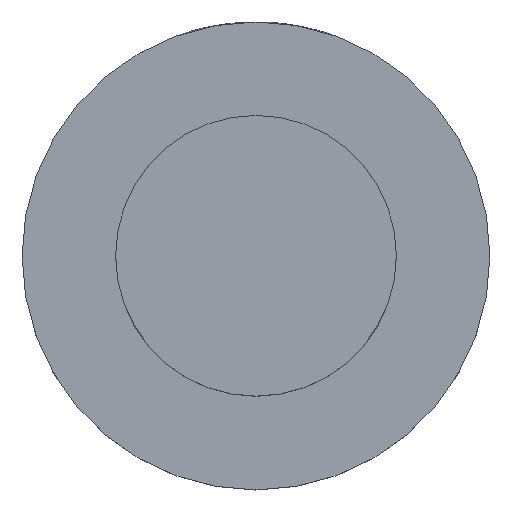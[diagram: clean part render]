
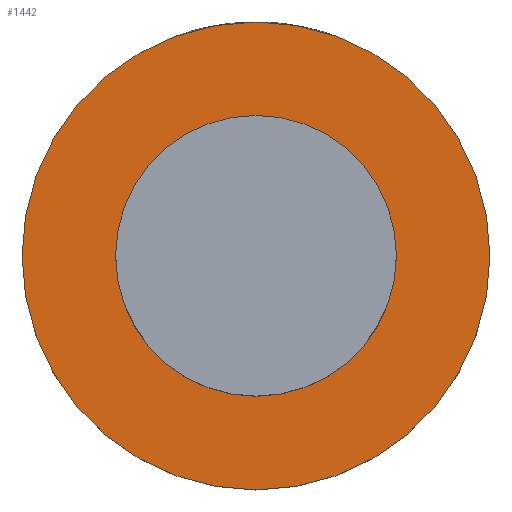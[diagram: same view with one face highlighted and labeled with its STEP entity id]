
A CAD part, top view. The second image highlights one B-rep face of the part: STEP entity #1442.
In plain terms, the highlighted planar face has unit normal (0, 0, 1).
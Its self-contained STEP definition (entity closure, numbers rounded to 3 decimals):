
#48=PLANE('',#1588);
#74=CIRCLE('',#1514,13.);
#75=CIRCLE('',#1515,13.);
#122=CIRCLE('',#1586,7.8);
#123=CIRCLE('',#1587,7.8);
#139=FACE_BOUND('',#332,.T.);
#238=FACE_OUTER_BOUND('',#331,.T.);
#331=EDGE_LOOP('',(#1316,#1317));
#332=EDGE_LOOP('',(#1318,#1319));
#649=VERTEX_POINT('',#3088);
#650=VERTEX_POINT('',#3090);
#698=VERTEX_POINT('',#3224);
#699=VERTEX_POINT('',#3225);
#846=EDGE_CURVE('',#649,#650,#74,.T.);
#847=EDGE_CURVE('',#650,#649,#75,.T.);
#908=EDGE_CURVE('',#698,#699,#122,.T.);
#909=EDGE_CURVE('',#699,#698,#123,.T.);
#1316=ORIENTED_EDGE('',*,*,#847,.F.);
#1317=ORIENTED_EDGE('',*,*,#846,.F.);
#1318=ORIENTED_EDGE('',*,*,#908,.T.);
#1319=ORIENTED_EDGE('',*,*,#909,.T.);
#1442=ADVANCED_FACE('',(#238,#139),#48,.T.);
#1514=AXIS2_PLACEMENT_3D('',#3091,#1756,#1757);
#1515=AXIS2_PLACEMENT_3D('',#3092,#1758,#1759);
#1586=AXIS2_PLACEMENT_3D('',#3226,#1914,#1915);
#1587=AXIS2_PLACEMENT_3D('',#3227,#1916,#1917);
#1588=AXIS2_PLACEMENT_3D('',#3229,#1919,#1920);
#1756=DIRECTION('center_axis',(0.,0.,-1.));
#1757=DIRECTION('ref_axis',(1.,0.,0.));
#1758=DIRECTION('center_axis',(0.,0.,-1.));
#1759=DIRECTION('ref_axis',(1.,0.,0.));
#1914=DIRECTION('center_axis',(0.,0.,-1.));
#1915=DIRECTION('ref_axis',(1.,0.,0.));
#1916=DIRECTION('center_axis',(0.,0.,-1.));
#1917=DIRECTION('ref_axis',(1.,0.,0.));
#1919=DIRECTION('center_axis',(0.,0.,1.));
#1920=DIRECTION('ref_axis',(1.,0.,0.));
#3088=CARTESIAN_POINT('',(0.,-13.,21.));
#3090=CARTESIAN_POINT('',(0.,13.,21.));
#3091=CARTESIAN_POINT('Origin',(0.,0.,21.));
#3092=CARTESIAN_POINT('Origin',(0.,0.,21.));
#3224=CARTESIAN_POINT('',(0.,7.8,21.));
#3225=CARTESIAN_POINT('',(0.,-7.8,21.));
#3226=CARTESIAN_POINT('Origin',(0.,0.,21.));
#3227=CARTESIAN_POINT('Origin',(0.,0.,21.));
#3229=CARTESIAN_POINT('Origin',(0.,13.,21.));
